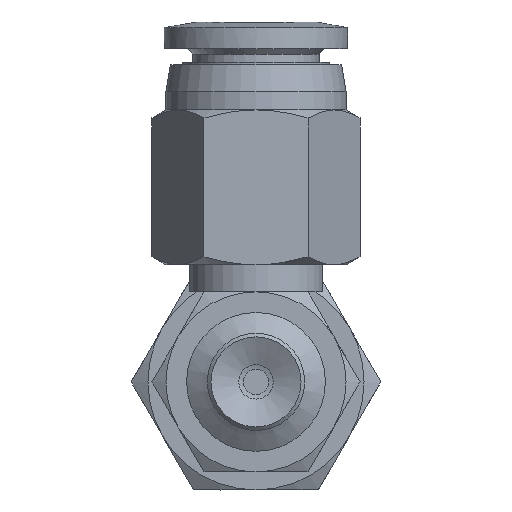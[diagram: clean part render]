
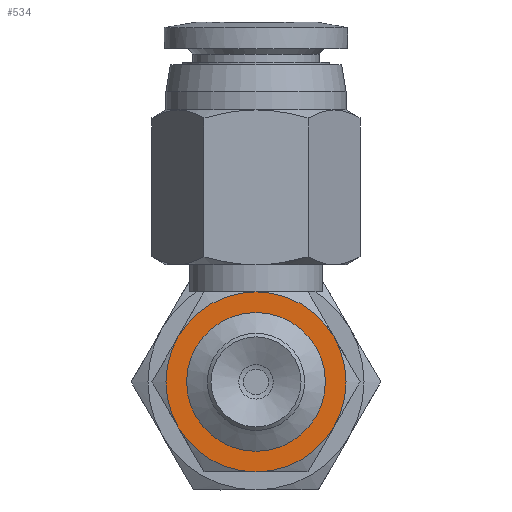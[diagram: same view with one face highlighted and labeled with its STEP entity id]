
A CAD part, front view. The second image highlights one B-rep face of the part: STEP entity #534.
In plain terms, the highlighted planar face has unit normal (0, -1, 0).
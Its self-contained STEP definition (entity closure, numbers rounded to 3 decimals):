
#534=ADVANCED_FACE('',(#808,#809),#810,.T.);
#808=FACE_BOUND('',#1216,.T.);
#809=FACE_OUTER_BOUND('',#1217,.T.);
#810=PLANE('',#1218);
#1216=EDGE_LOOP('',(#2234));
#1217=EDGE_LOOP('',(#2235,#2236,#2237,#2238,#2239,#2240));
#1218=AXIS2_PLACEMENT_3D('',#2241,#2242,#2243);
#2234=ORIENTED_EDGE('',*,*,#2903,.F.);
#2235=ORIENTED_EDGE('',*,*,#2929,.T.);
#2236=ORIENTED_EDGE('',*,*,#2930,.T.);
#2237=ORIENTED_EDGE('',*,*,#2851,.T.);
#2238=ORIENTED_EDGE('',*,*,#2858,.T.);
#2239=ORIENTED_EDGE('',*,*,#2860,.T.);
#2240=ORIENTED_EDGE('',*,*,#2873,.T.);
#2241=CARTESIAN_POINT('',(2.0,0.,0.0));
#2242=DIRECTION('',(0.0,-1.0,0.0));
#2243=DIRECTION('',(0.0,0.0,-1.0));
#2851=EDGE_CURVE('',#3200,#3211,#3213,.T.);
#2858=EDGE_CURVE('',#3211,#3223,#3225,.T.);
#2860=EDGE_CURVE('',#3223,#3226,#3229,.T.);
#2873=EDGE_CURVE('',#3226,#3244,#3250,.T.);
#2903=EDGE_CURVE('',#3302,#3302,#3303,.T.);
#2929=EDGE_CURVE('',#3244,#3345,#3347,.T.);
#2930=EDGE_CURVE('',#3345,#3200,#3348,.T.);
#3200=VERTEX_POINT('',#3982);
#3211=VERTEX_POINT('',#4003);
#3213=CIRCLE('',#4007,5.0);
#3223=VERTEX_POINT('',#4024);
#3225=CIRCLE('',#4028,5.0);
#3226=VERTEX_POINT('',#4029);
#3229=CIRCLE('',#4034,5.0);
#3244=VERTEX_POINT('',#4061);
#3250=CIRCLE('',#4074,5.0);
#3302=VERTEX_POINT('',#4205);
#3303=CIRCLE('',#4206,2.0);
#3345=VERTEX_POINT('',#4258);
#3347=CIRCLE('',#4262,5.0);
#3348=CIRCLE('',#4263,5.0);
#3982=CARTESIAN_POINT('',(4.33,0.,2.5));
#4003=CARTESIAN_POINT('',(0.0,0.,5.0));
#4007=AXIS2_PLACEMENT_3D('',#4908,#4909,#4910);
#4024=CARTESIAN_POINT('',(-4.33,0.,2.5));
#4028=AXIS2_PLACEMENT_3D('',#4915,#4916,#4917);
#4029=CARTESIAN_POINT('',(-4.33,0.,-2.5));
#4034=AXIS2_PLACEMENT_3D('',#4918,#4919,#4920);
#4061=CARTESIAN_POINT('',(0.0,0.,-5.0));
#4074=AXIS2_PLACEMENT_3D('',#4927,#4928,#4929);
#4205=CARTESIAN_POINT('',(0.0,0.,-2.0));
#4206=AXIS2_PLACEMENT_3D('',#4963,#4964,#4965);
#4258=CARTESIAN_POINT('',(4.33,0.,-2.5));
#4262=AXIS2_PLACEMENT_3D('',#5018,#5019,#5020);
#4263=AXIS2_PLACEMENT_3D('',#5021,#5022,#5023);
#4908=CARTESIAN_POINT('',(0.0,0.,0.0));
#4909=DIRECTION('',(0.0,-1.0,0.0));
#4910=DIRECTION('',(0.0,0.0,-1.0));
#4915=CARTESIAN_POINT('',(0.0,0.,0.0));
#4916=DIRECTION('',(0.0,-1.0,0.0));
#4917=DIRECTION('',(0.0,0.0,-1.0));
#4918=CARTESIAN_POINT('',(0.0,0.,0.0));
#4919=DIRECTION('',(0.0,-1.0,0.0));
#4920=DIRECTION('',(0.0,0.0,-1.0));
#4927=CARTESIAN_POINT('',(0.0,0.,0.0));
#4928=DIRECTION('',(0.0,-1.0,0.0));
#4929=DIRECTION('',(0.0,0.0,-1.0));
#4963=CARTESIAN_POINT('',(0.0,0.,0.0));
#4964=DIRECTION('',(0.0,-1.0,0.0));
#4965=DIRECTION('',(0.0,0.0,-1.0));
#5018=CARTESIAN_POINT('',(0.0,0.,0.0));
#5019=DIRECTION('',(0.0,-1.0,0.0));
#5020=DIRECTION('',(0.0,0.0,-1.0));
#5021=CARTESIAN_POINT('',(0.0,0.,0.0));
#5022=DIRECTION('',(0.0,-1.0,0.0));
#5023=DIRECTION('',(0.0,0.0,-1.0));
